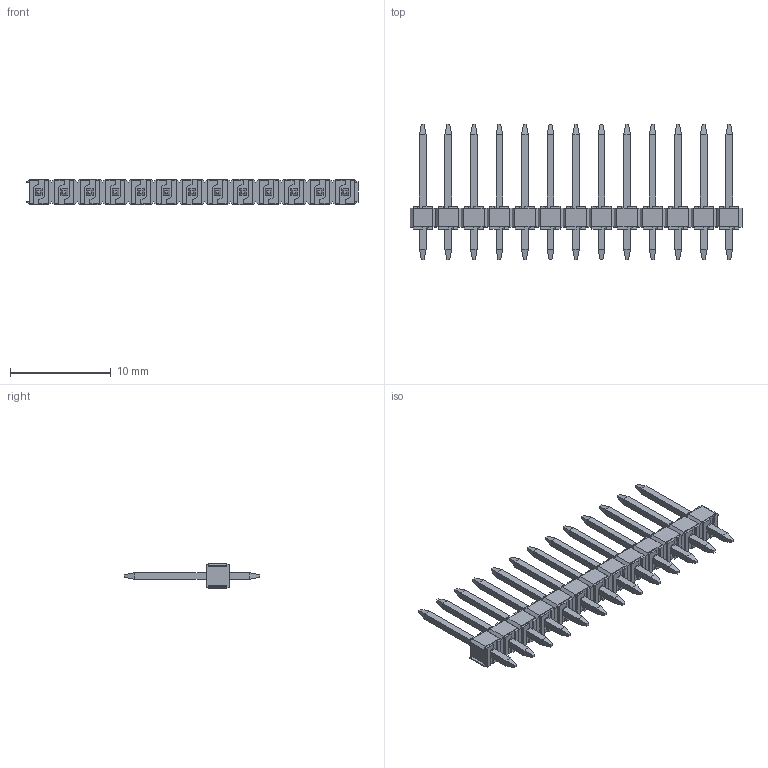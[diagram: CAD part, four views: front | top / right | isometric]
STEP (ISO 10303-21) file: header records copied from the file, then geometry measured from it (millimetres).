
FILE_DESCRIPTION((''),'2;1');
FILE_NAME('022284134','2015-04-13T',('me'),(''),'PRO/ENGINEER BY PARAMETRIC TECHNOLOGY CORPORATION, 2011490','PRO/ENGINEER BY PARAMETRIC TECHNOLOGY CORPORATION, 2011490','');
FILE_SCHEMA(('CONFIG_CONTROL_DESIGN'));
Length unit declared in the file: inch
Products named in the file (1): 022284134
Bounding box: 33.02 x 13.46 x 2.49 mm (x, y, z)
Volume: 223.1 mm3; surface area: 739.7 mm2
Topology: 1 solids, 1 shells, 688 faces, 1754 edges, 1142 vertices
Faces by surface type: plane 636, cylinder 52
Entity records: 20336 total; most frequent: CARTESIAN_POINT 3559, ORIENTED_EDGE 3456, DIRECTION 3262, EDGE_CURVE 1728, VECTOR 1624, LINE 1624, VERTEX_POINT 1116, AXIS2_PLACEMENT_3D 819
